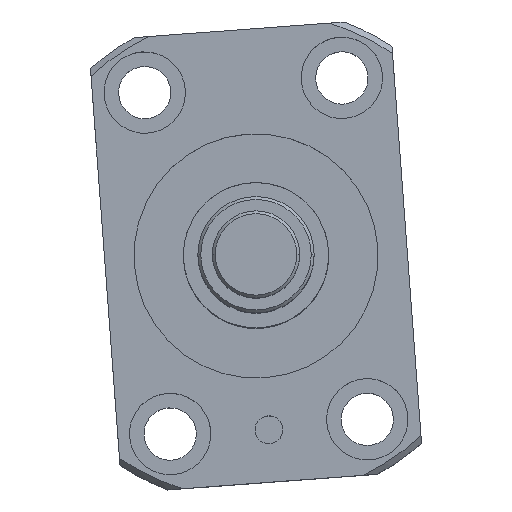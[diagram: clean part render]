
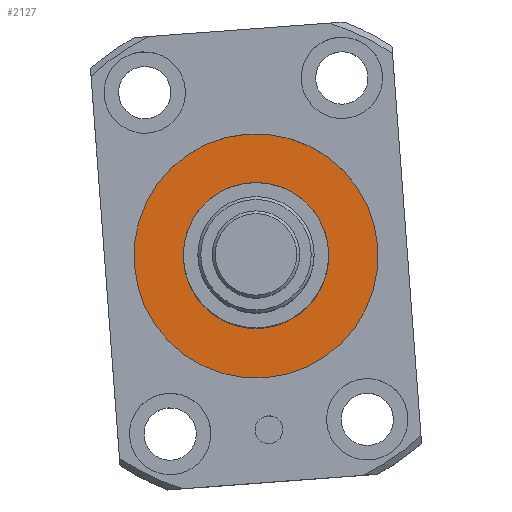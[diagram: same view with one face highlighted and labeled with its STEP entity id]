
A CAD part, top view. The second image highlights one B-rep face of the part: STEP entity #2127.
In plain terms, the highlighted planar face has unit normal (0, 0, 1).
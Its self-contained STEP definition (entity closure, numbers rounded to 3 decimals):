
#31 = DIRECTION ( 'NONE',  ( 1., 0., 0. ) ) ;
#66 = AXIS2_PLACEMENT_3D ( 'NONE', #3544, #1914, #244 ) ;
#119 = VERTEX_POINT ( 'NONE', #1916 ) ;
#235 = ORIENTED_EDGE ( 'NONE', *, *, #1947, .T. ) ;
#244 = DIRECTION ( 'NONE',  ( 1., 0., 0. ) ) ;
#293 = AXIS2_PLACEMENT_3D ( 'NONE', #1042, #2964, #1330 ) ;
#315 = DIRECTION ( 'NONE',  ( 0., 0., -1. ) ) ;
#764 = AXIS2_PLACEMENT_3D ( 'NONE', #2326, #3424, #1796 ) ;
#886 = ORIENTED_EDGE ( 'NONE', *, *, #3485, .T. ) ;
#1042 = CARTESIAN_POINT ( 'NONE',  ( 0., 0., -4.85 ) ) ;
#1330 = DIRECTION ( 'NONE',  ( 1., 0., 0. ) ) ;
#1395 = VERTEX_POINT ( 'NONE', #2232 ) ;
#1496 = AXIS2_PLACEMENT_3D ( 'NONE', #1987, #315, #2262 ) ;
#1677 = CARTESIAN_POINT ( 'NONE',  ( -12.5, 0., -4.85 ) ) ;
#1706 = DIRECTION ( 'NONE',  ( 0., 0., -1. ) ) ;
#1737 = ORIENTED_EDGE ( 'NONE', *, *, #2572, .T. ) ;
#1791 = AXIS2_PLACEMENT_3D ( 'NONE', #3336, #1706, #31 ) ;
#1796 = DIRECTION ( 'NONE',  ( 1., 0., 0. ) ) ;
#1901 = VERTEX_POINT ( 'NONE', #1677 ) ;
#1914 = DIRECTION ( 'NONE',  ( 0., 0., 1. ) ) ;
#1916 = CARTESIAN_POINT ( 'NONE',  ( -21., 0., -4.85 ) ) ;
#1947 = EDGE_CURVE ( 'NONE', #1901, #1395, #3108, .T. ) ;
#1987 = CARTESIAN_POINT ( 'NONE',  ( 0., 0., -4.85 ) ) ;
#1991 = EDGE_LOOP ( 'NONE', ( #235, #1737 ) ) ;
#2127 = ADVANCED_FACE ( 'NONE', ( #2342, #3067 ), #2875, .T. ) ;
#2232 = CARTESIAN_POINT ( 'NONE',  ( 12.5, 0., -4.85 ) ) ;
#2262 = DIRECTION ( 'NONE',  ( 1., 0., 0. ) ) ;
#2277 = VERTEX_POINT ( 'NONE', #3496 ) ;
#2326 = CARTESIAN_POINT ( 'NONE',  ( 0., 0., -4.85 ) ) ;
#2342 = FACE_OUTER_BOUND ( 'NONE', #3004, .T. ) ;
#2523 = CIRCLE ( 'NONE', #1496, 12.5 ) ;
#2572 = EDGE_CURVE ( 'NONE', #1395, #1901, #2523, .T. ) ;
#2875 = PLANE ( 'NONE',  #764 ) ;
#2964 = DIRECTION ( 'NONE',  ( 0., 0., 1. ) ) ;
#3004 = EDGE_LOOP ( 'NONE', ( #3439, #886 ) ) ;
#3036 = CIRCLE ( 'NONE', #293, 21. ) ;
#3067 = FACE_BOUND ( 'NONE', #1991, .T. ) ;
#3108 = CIRCLE ( 'NONE', #1791, 12.5 ) ;
#3336 = CARTESIAN_POINT ( 'NONE',  ( 0., 0., -4.85 ) ) ;
#3424 = DIRECTION ( 'NONE',  ( 0., 0., 1. ) ) ;
#3439 = ORIENTED_EDGE ( 'NONE', *, *, #3537, .T. ) ;
#3485 = EDGE_CURVE ( 'NONE', #119, #2277, #3036, .T. ) ;
#3496 = CARTESIAN_POINT ( 'NONE',  ( 21., 0., -4.85 ) ) ;
#3497 = CIRCLE ( 'NONE', #66, 21. ) ;
#3537 = EDGE_CURVE ( 'NONE', #2277, #119, #3497, .T. ) ;
#3544 = CARTESIAN_POINT ( 'NONE',  ( 0., 0., -4.85 ) ) ;
